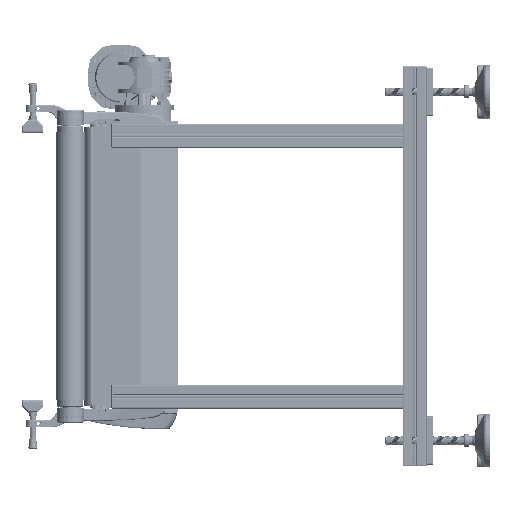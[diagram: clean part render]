
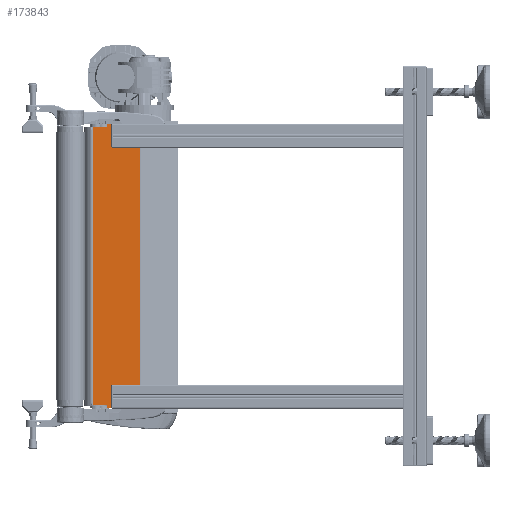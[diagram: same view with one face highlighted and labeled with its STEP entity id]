
A CAD part, left-side view. The second image highlights one B-rep face of the part: STEP entity #173843.
In plain terms, the highlighted planar face has unit normal (-1, 0, 0).
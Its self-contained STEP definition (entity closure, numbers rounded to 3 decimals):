
#2723 = EDGE_CURVE ( 'NONE', #170823, #15625, #176530, .T. ) ;
#5369 = DIRECTION ( 'NONE',  ( 1., 0., 0. ) ) ;
#5728 = CARTESIAN_POINT ( 'NONE',  ( -90., 160., -94. ) ) ;
#6234 = ORIENTED_EDGE ( 'NONE', *, *, #131424, .T. ) ;
#7504 = ORIENTED_EDGE ( 'NONE', *, *, #126660, .T. ) ;
#13354 = EDGE_CURVE ( 'NONE', #364897, #235970, #20012, .T. ) ;
#15625 = VERTEX_POINT ( 'NONE', #310671 ) ;
#16341 = VECTOR ( 'NONE', #237735, 1000. ) ;
#20012 = LINE ( 'NONE', #160285, #342130 ) ;
#21631 = ORIENTED_EDGE ( 'NONE', *, *, #97086, .T. ) ;
#25122 = ORIENTED_EDGE ( 'NONE', *, *, #61935, .T. ) ;
#30699 = DIRECTION ( 'NONE',  ( 0., -1., 0. ) ) ;
#39181 = PLANE ( 'NONE',  #276941 ) ;
#43948 = LINE ( 'NONE', #358129, #368735 ) ;
#45646 = CARTESIAN_POINT ( 'NONE',  ( -90., 93., 399. ) ) ;
#46225 = DIRECTION ( 'NONE',  ( 0., -1., 0. ) ) ;
#47778 = VECTOR ( 'NONE', #304169, 1000. ) ;
#51245 = VERTEX_POINT ( 'NONE', #126794 ) ;
#52054 = ORIENTED_EDGE ( 'NONE', *, *, #2723, .T. ) ;
#52727 = CARTESIAN_POINT ( 'NONE',  ( -90., 131.5, 413.5 ) ) ;
#55747 = VERTEX_POINT ( 'NONE', #45646 ) ;
#57404 = EDGE_CURVE ( 'NONE', #331018, #293637, #151483, .T. ) ;
#58738 = CARTESIAN_POINT ( 'NONE',  ( -90., 160., -110.5 ) ) ;
#60148 = DIRECTION ( 'NONE',  ( 1., 0., 0. ) ) ;
#61935 = EDGE_CURVE ( 'NONE', #55747, #245083, #306732, .T. ) ;
#62927 = DIRECTION ( 'NONE',  ( 0., 0., -1. ) ) ;
#65963 = VERTEX_POINT ( 'NONE', #353918 ) ;
#70693 = CARTESIAN_POINT ( 'NONE',  ( -90., 160., -101. ) ) ;
#71478 = CARTESIAN_POINT ( 'NONE',  ( -90., 70.086, 413.5 ) ) ;
#72008 = DIRECTION ( 'NONE',  ( 0., -1., 0. ) ) ;
#72910 = CARTESIAN_POINT ( 'NONE',  ( -90., 93., -97.5 ) ) ;
#74585 = FACE_OUTER_BOUND ( 'NONE', #364858, .T. ) ;
#75676 = EDGE_CURVE ( 'NONE', #65963, #51245, #96026, .T. ) ;
#93818 = CARTESIAN_POINT ( 'NONE',  ( -90., 160., 399. ) ) ;
#96026 = LINE ( 'NONE', #58738, #244502 ) ;
#97086 = EDGE_CURVE ( 'NONE', #15625, #55747, #209718, .T. ) ;
#99018 = CARTESIAN_POINT ( 'NONE',  ( -90., 160., 413.5 ) ) ;
#102281 = CIRCLE ( 'NONE', #311295, 3.5 ) ;
#107660 = VECTOR ( 'NONE', #365526, 1000. ) ;
#111172 = VECTOR ( 'NONE', #62927, 1000. ) ;
#115384 = CARTESIAN_POINT ( 'NONE',  ( -90., 70.086, 413.5 ) ) ;
#116705 = LINE ( 'NONE', #281369, #107660 ) ;
#121545 = EDGE_LOOP ( 'NONE', ( #21631, #25122, #6234, #52054 ) ) ;
#123020 = ORIENTED_EDGE ( 'NONE', *, *, #149578, .T. ) ;
#125226 = DIRECTION ( 'NONE',  ( 0., 0., -1. ) ) ;
#126660 = EDGE_CURVE ( 'NONE', #250209, #267406, #251196, .T. ) ;
#126794 = CARTESIAN_POINT ( 'NONE',  ( -90., 131.5, -110.5 ) ) ;
#126811 = DIRECTION ( 'NONE',  ( 0., 0., -1. ) ) ;
#131424 = EDGE_CURVE ( 'NONE', #245083, #170823, #183419, .T. ) ;
#133366 = ORIENTED_EDGE ( 'NONE', *, *, #183762, .T. ) ;
#138340 = ORIENTED_EDGE ( 'NONE', *, *, #181003, .F. ) ;
#145722 = VERTEX_POINT ( 'NONE', #301010 ) ;
#149578 = EDGE_CURVE ( 'NONE', #206006, #65963, #116705, .T. ) ;
#151483 = LINE ( 'NONE', #5728, #189132 ) ;
#153222 = DIRECTION ( 'NONE',  ( 1., 0., 0. ) ) ;
#154865 = LINE ( 'NONE', #70693, #343953 ) ;
#159435 = EDGE_CURVE ( 'NONE', #145722, #194209, #154865, .T. ) ;
#159751 = EDGE_CURVE ( 'NONE', #318623, #235970, #319166, .T. ) ;
#160285 = CARTESIAN_POINT ( 'NONE',  ( -90., 160., -115.5 ) ) ;
#160623 = CARTESIAN_POINT ( 'NONE',  ( -90., 103., 392. ) ) ;
#160771 = DIRECTION ( 'NONE',  ( 1., 0., 0. ) ) ;
#165530 = CARTESIAN_POINT ( 'NONE',  ( -90., 103., -97.5 ) ) ;
#167151 = AXIS2_PLACEMENT_3D ( 'NONE', #165530, #309547, #216138 ) ;
#170823 = VERTEX_POINT ( 'NONE', #160623 ) ;
#173058 = LINE ( 'NONE', #195603, #277822 ) ;
#173843 = ADVANCED_FACE ( 'NONE', ( #241108, #330833, #74585 ), #39181, .F. ) ;
#176530 = CIRCLE ( 'NONE', #224362, 3.5 ) ;
#177488 = CARTESIAN_POINT ( 'NONE',  ( -90., 93., 392. ) ) ;
#179206 = CARTESIAN_POINT ( 'NONE',  ( -90., 93., 395.5 ) ) ;
#181003 = EDGE_CURVE ( 'NONE', #250209, #318623, #43948, .T. ) ;
#181721 = ORIENTED_EDGE ( 'NONE', *, *, #350547, .T. ) ;
#182392 = VECTOR ( 'NONE', #321961, 1000. ) ;
#183419 = LINE ( 'NONE', #230860, #16341 ) ;
#183762 = EDGE_CURVE ( 'NONE', #194209, #331018, #363901, .T. ) ;
#184764 = DIRECTION ( 'NONE',  ( 0., 1., 0. ) ) ;
#185854 = CARTESIAN_POINT ( 'NONE',  ( -90., 131.5, 413.5 ) ) ;
#188135 = EDGE_LOOP ( 'NONE', ( #234483, #262879, #269710, #133366 ) ) ;
#189132 = VECTOR ( 'NONE', #314398, 1000. ) ;
#193241 = AXIS2_PLACEMENT_3D ( 'NONE', #179206, #5369, #126811 ) ;
#194209 = VERTEX_POINT ( 'NONE', #315305 ) ;
#195603 = CARTESIAN_POINT ( 'NONE',  ( -90., 160., 408.5 ) ) ;
#206006 = VERTEX_POINT ( 'NONE', #312002 ) ;
#206215 = VECTOR ( 'NONE', #333533, 1000. ) ;
#209718 = LINE ( 'NONE', #93818, #182392 ) ;
#216138 = DIRECTION ( 'NONE',  ( 0., 0., -1. ) ) ;
#218131 = CARTESIAN_POINT ( 'NONE',  ( -90., 131.5, 413.5 ) ) ;
#224362 = AXIS2_PLACEMENT_3D ( 'NONE', #351741, #60148, #318215 ) ;
#229774 = ORIENTED_EDGE ( 'NONE', *, *, #75676, .T. ) ;
#230860 = CARTESIAN_POINT ( 'NONE',  ( -90., 160., 392. ) ) ;
#234483 = ORIENTED_EDGE ( 'NONE', *, *, #57404, .T. ) ;
#235970 = VERTEX_POINT ( 'NONE', #301989 ) ;
#237735 = DIRECTION ( 'NONE',  ( 0., 1., 0. ) ) ;
#241108 = FACE_BOUND ( 'NONE', #188135, .T. ) ;
#244502 = VECTOR ( 'NONE', #30699, 1000. ) ;
#245083 = VERTEX_POINT ( 'NONE', #177488 ) ;
#250209 = VERTEX_POINT ( 'NONE', #52727 ) ;
#251196 = LINE ( 'NONE', #185854, #206215 ) ;
#258665 = ORIENTED_EDGE ( 'NONE', *, *, #359796, .T. ) ;
#262879 = ORIENTED_EDGE ( 'NONE', *, *, #360957, .T. ) ;
#267406 = VERTEX_POINT ( 'NONE', #314330 ) ;
#269710 = ORIENTED_EDGE ( 'NONE', *, *, #159435, .T. ) ;
#270563 = ORIENTED_EDGE ( 'NONE', *, *, #159751, .F. ) ;
#276941 = AXIS2_PLACEMENT_3D ( 'NONE', #99018, #153222, #125226 ) ;
#277822 = VECTOR ( 'NONE', #341443, 1000. ) ;
#281369 = CARTESIAN_POINT ( 'NONE',  ( -90., 158.5, 413.5 ) ) ;
#293637 = VERTEX_POINT ( 'NONE', #311229 ) ;
#301010 = CARTESIAN_POINT ( 'NONE',  ( -90., 93., -101. ) ) ;
#301075 = DIRECTION ( 'NONE',  ( 0., 0., -1. ) ) ;
#301989 = CARTESIAN_POINT ( 'NONE',  ( -90., 70.086, -115.5 ) ) ;
#304169 = DIRECTION ( 'NONE',  ( 0., 0., -1. ) ) ;
#306732 = CIRCLE ( 'NONE', #193241, 3.5 ) ;
#309547 = DIRECTION ( 'NONE',  ( 1., 0., 0. ) ) ;
#310671 = CARTESIAN_POINT ( 'NONE',  ( -90., 103., 399. ) ) ;
#311229 = CARTESIAN_POINT ( 'NONE',  ( -90., 93., -94. ) ) ;
#311295 = AXIS2_PLACEMENT_3D ( 'NONE', #72910, #160771, #301075 ) ;
#312002 = CARTESIAN_POINT ( 'NONE',  ( -90., 158.5, 408.5 ) ) ;
#314330 = CARTESIAN_POINT ( 'NONE',  ( -90., 131.5, 408.5 ) ) ;
#314398 = DIRECTION ( 'NONE',  ( 0., -1., 0. ) ) ;
#315305 = CARTESIAN_POINT ( 'NONE',  ( -90., 103., -101. ) ) ;
#316307 = CARTESIAN_POINT ( 'NONE',  ( -90., 131.5, -115.5 ) ) ;
#318215 = DIRECTION ( 'NONE',  ( 0., 0., -1. ) ) ;
#318623 = VERTEX_POINT ( 'NONE', #71478 ) ;
#319166 = LINE ( 'NONE', #115384, #111172 ) ;
#321649 = LINE ( 'NONE', #218131, #47778 ) ;
#321961 = DIRECTION ( 'NONE',  ( 0., -1., 0. ) ) ;
#327217 = ORIENTED_EDGE ( 'NONE', *, *, #13354, .T. ) ;
#330833 = FACE_BOUND ( 'NONE', #121545, .T. ) ;
#331018 = VERTEX_POINT ( 'NONE', #345626 ) ;
#333533 = DIRECTION ( 'NONE',  ( 0., 0., -1. ) ) ;
#341443 = DIRECTION ( 'NONE',  ( 0., 1., 0. ) ) ;
#342130 = VECTOR ( 'NONE', #46225, 1000. ) ;
#343953 = VECTOR ( 'NONE', #184764, 1000. ) ;
#345626 = CARTESIAN_POINT ( 'NONE',  ( -90., 103., -94. ) ) ;
#350547 = EDGE_CURVE ( 'NONE', #267406, #206006, #173058, .T. ) ;
#351741 = CARTESIAN_POINT ( 'NONE',  ( -90., 103., 395.5 ) ) ;
#353918 = CARTESIAN_POINT ( 'NONE',  ( -90., 158.5, -110.5 ) ) ;
#358129 = CARTESIAN_POINT ( 'NONE',  ( -90., 160., 413.5 ) ) ;
#359796 = EDGE_CURVE ( 'NONE', #51245, #364897, #321649, .T. ) ;
#360957 = EDGE_CURVE ( 'NONE', #293637, #145722, #102281, .T. ) ;
#363901 = CIRCLE ( 'NONE', #167151, 3.5 ) ;
#364858 = EDGE_LOOP ( 'NONE', ( #7504, #181721, #123020, #229774, #258665, #327217, #270563, #138340 ) ) ;
#364897 = VERTEX_POINT ( 'NONE', #316307 ) ;
#365526 = DIRECTION ( 'NONE',  ( 0., 0., -1. ) ) ;
#368735 = VECTOR ( 'NONE', #72008, 1000. ) ;
